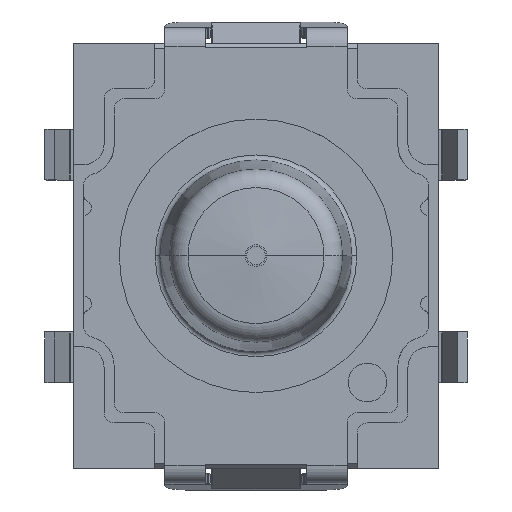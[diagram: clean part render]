
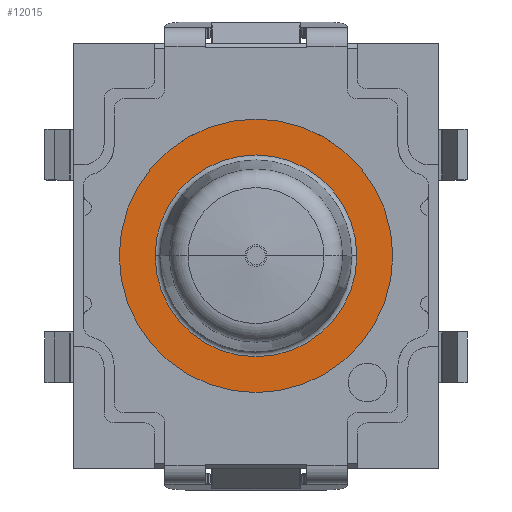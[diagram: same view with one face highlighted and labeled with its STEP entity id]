
A CAD part, top view. The second image highlights one B-rep face of the part: STEP entity #12015.
In plain terms, the highlighted planar face has unit normal (0, 0, 1).
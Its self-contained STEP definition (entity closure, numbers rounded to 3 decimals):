
#459 = CARTESIAN_POINT ( 'NONE',  ( 1.35, 0., 1. ) ) ;
#558 = EDGE_LOOP ( 'NONE', ( #13710, #7119 ) ) ;
#651 = CARTESIAN_POINT ( 'NONE',  ( 0., 0., 1. ) ) ;
#1281 = DIRECTION ( 'NONE',  ( -1., 0., 0. ) ) ;
#1523 = EDGE_CURVE ( 'NONE', #11165, #1643, #3127, .T. ) ;
#1629 = CIRCLE ( 'NONE', #6751, 1.35 ) ;
#1643 = VERTEX_POINT ( 'NONE', #9987 ) ;
#2435 = DIRECTION ( 'NONE',  ( 0., 0., 1. ) ) ;
#3127 = CIRCLE ( 'NONE', #8265, 0.996 ) ;
#3553 = CARTESIAN_POINT ( 'NONE',  ( -0.996, 0., 1. ) ) ;
#3959 = EDGE_CURVE ( 'NONE', #11414, #9236, #12920, .T. ) ;
#4719 = FACE_OUTER_BOUND ( 'NONE', #11283, .T. ) ;
#4864 = PLANE ( 'NONE',  #8756 ) ;
#4933 = EDGE_CURVE ( 'NONE', #1643, #11165, #7529, .T. ) ;
#5152 = CARTESIAN_POINT ( 'NONE',  ( -1.35, 0., 1. ) ) ;
#6450 = DIRECTION ( 'NONE',  ( -1., 0., 0. ) ) ;
#6751 = AXIS2_PLACEMENT_3D ( 'NONE', #11219, #10874, #7561 ) ;
#6888 = DIRECTION ( 'NONE',  ( 1., 0., 0. ) ) ;
#7119 = ORIENTED_EDGE ( 'NONE', *, *, #4933, .F. ) ;
#7529 = CIRCLE ( 'NONE', #9398, 0.996 ) ;
#7561 = DIRECTION ( 'NONE',  ( -1., 0., 0. ) ) ;
#7921 = DIRECTION ( 'NONE',  ( 0., 0., 1. ) ) ;
#8265 = AXIS2_PLACEMENT_3D ( 'NONE', #651, #13014, #9493 ) ;
#8756 = AXIS2_PLACEMENT_3D ( 'NONE', #9314, #7921, #6888 ) ;
#9236 = VERTEX_POINT ( 'NONE', #459 ) ;
#9314 = CARTESIAN_POINT ( 'NONE',  ( 0., -1.535, 1. ) ) ;
#9398 = AXIS2_PLACEMENT_3D ( 'NONE', #13433, #2435, #1281 ) ;
#9493 = DIRECTION ( 'NONE',  ( -1., 0., 0. ) ) ;
#9987 = CARTESIAN_POINT ( 'NONE',  ( 0.996, 0., 1. ) ) ;
#10350 = FACE_BOUND ( 'NONE', #558, .T. ) ;
#10874 = DIRECTION ( 'NONE',  ( 0., 0., 1. ) ) ;
#11165 = VERTEX_POINT ( 'NONE', #3553 ) ;
#11219 = CARTESIAN_POINT ( 'NONE',  ( 0., 0., 1. ) ) ;
#11283 = EDGE_LOOP ( 'NONE', ( #14087, #12125 ) ) ;
#11414 = VERTEX_POINT ( 'NONE', #5152 ) ;
#11903 = CARTESIAN_POINT ( 'NONE',  ( 0., 0., 1. ) ) ;
#12015 = ADVANCED_FACE ( 'NONE', ( #10350, #4719 ), #4864, .T. ) ;
#12047 = DIRECTION ( 'NONE',  ( 0., 0., 1. ) ) ;
#12125 = ORIENTED_EDGE ( 'NONE', *, *, #13439, .T. ) ;
#12920 = CIRCLE ( 'NONE', #14070, 1.35 ) ;
#13014 = DIRECTION ( 'NONE',  ( 0., 0., 1. ) ) ;
#13433 = CARTESIAN_POINT ( 'NONE',  ( 0., 0., 1. ) ) ;
#13439 = EDGE_CURVE ( 'NONE', #9236, #11414, #1629, .T. ) ;
#13710 = ORIENTED_EDGE ( 'NONE', *, *, #1523, .F. ) ;
#14070 = AXIS2_PLACEMENT_3D ( 'NONE', #11903, #12047, #6450 ) ;
#14087 = ORIENTED_EDGE ( 'NONE', *, *, #3959, .T. ) ;
